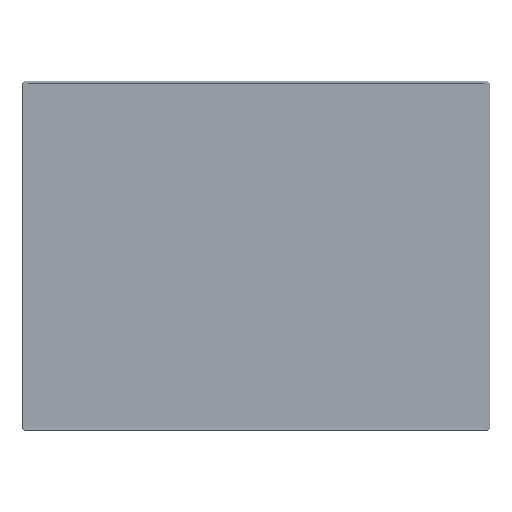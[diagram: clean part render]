
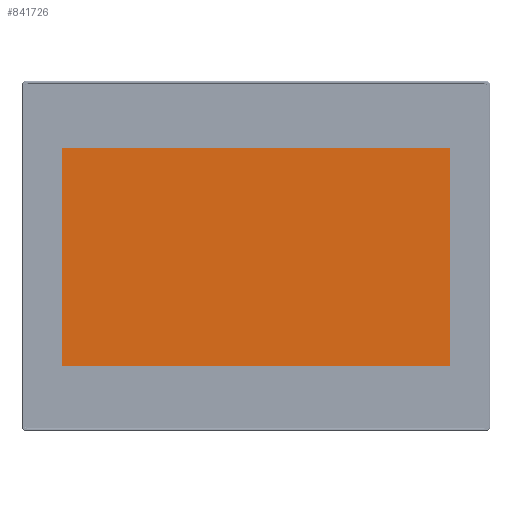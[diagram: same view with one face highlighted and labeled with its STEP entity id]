
A CAD part, top view. The second image highlights one B-rep face of the part: STEP entity #841726.
In plain terms, the highlighted planar face has unit normal (0, 0, 1).
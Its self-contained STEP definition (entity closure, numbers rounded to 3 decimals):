
#7013 = LINE ( 'NONE', #207204, #192289 ) ;
#44630 = CARTESIAN_POINT ( 'NONE',  ( -172.942, 151.1, -0.899 ) ) ;
#45594 = VERTEX_POINT ( 'NONE', #199987 ) ;
#67479 = DIRECTION ( 'NONE',  ( 0., 1., 0. ) ) ;
#74698 = VERTEX_POINT ( 'NONE', #454973 ) ;
#138667 = LINE ( 'NONE', #661067, #349171 ) ;
#187855 = CARTESIAN_POINT ( 'NONE',  ( 172.943, 96.805, -0.899 ) ) ;
#192289 = VECTOR ( 'NONE', #761665, 1000. ) ;
#199987 = CARTESIAN_POINT ( 'NONE',  ( -172.943, -98.366, -0.899 ) ) ;
#207204 = CARTESIAN_POINT ( 'NONE',  ( 203.6, 96.805, -0.899 ) ) ;
#212793 = VECTOR ( 'NONE', #522270, 1000. ) ;
#267066 = LINE ( 'NONE', #1016400, #663887 ) ;
#306402 = CARTESIAN_POINT ( 'NONE',  ( -172.942, 96.805, -0.899 ) ) ;
#349171 = VECTOR ( 'NONE', #425259, 1000. ) ;
#356154 = PLANE ( 'NONE',  #950657 ) ;
#362584 = FACE_OUTER_BOUND ( 'NONE', #654210, .T. ) ;
#363011 = CARTESIAN_POINT ( 'NONE',  ( 203.6, 151.1, -0.899 ) ) ;
#375575 = EDGE_CURVE ( 'NONE', #994738, #495232, #7013, .T. ) ;
#423440 = LINE ( 'NONE', #44630, #212793 ) ;
#425259 = DIRECTION ( 'NONE',  ( 1., 0., 0. ) ) ;
#442571 = DIRECTION ( 'NONE',  ( -1., 0., 0. ) ) ;
#452139 = EDGE_CURVE ( 'NONE', #45594, #74698, #138667, .T. ) ;
#453658 = ORIENTED_EDGE ( 'NONE', *, *, #452139, .T. ) ;
#454973 = CARTESIAN_POINT ( 'NONE',  ( 172.943, -98.366, -0.899 ) ) ;
#495232 = VERTEX_POINT ( 'NONE', #306402 ) ;
#503140 = ORIENTED_EDGE ( 'NONE', *, *, #518616, .T. ) ;
#518616 = EDGE_CURVE ( 'NONE', #495232, #45594, #423440, .T. ) ;
#522270 = DIRECTION ( 'NONE',  ( 0., -1., 0. ) ) ;
#597622 = EDGE_CURVE ( 'NONE', #74698, #994738, #267066, .T. ) ;
#617559 = ORIENTED_EDGE ( 'NONE', *, *, #597622, .T. ) ;
#654210 = EDGE_LOOP ( 'NONE', ( #617559, #804205, #503140, #453658 ) ) ;
#661067 = CARTESIAN_POINT ( 'NONE',  ( 203.6, -98.366, -0.899 ) ) ;
#663887 = VECTOR ( 'NONE', #67479, 1000. ) ;
#761665 = DIRECTION ( 'NONE',  ( -1., 0., 0. ) ) ;
#804205 = ORIENTED_EDGE ( 'NONE', *, *, #375575, .T. ) ;
#841726 = ADVANCED_FACE ( 'NONE', ( #362584 ), #356154, .F. ) ;
#917588 = DIRECTION ( 'NONE',  ( 0., 0., -1. ) ) ;
#950657 = AXIS2_PLACEMENT_3D ( 'NONE', #363011, #917588, #442571 ) ;
#994738 = VERTEX_POINT ( 'NONE', #187855 ) ;
#1016400 = CARTESIAN_POINT ( 'NONE',  ( 172.943, 151.1, -0.899 ) ) ;
